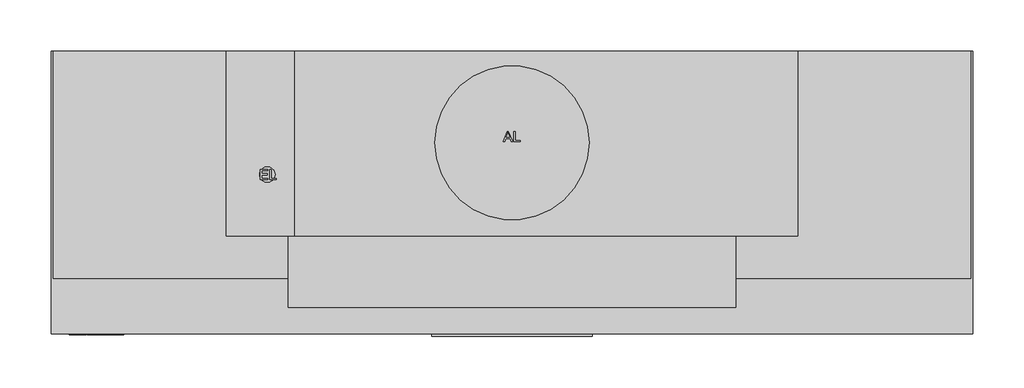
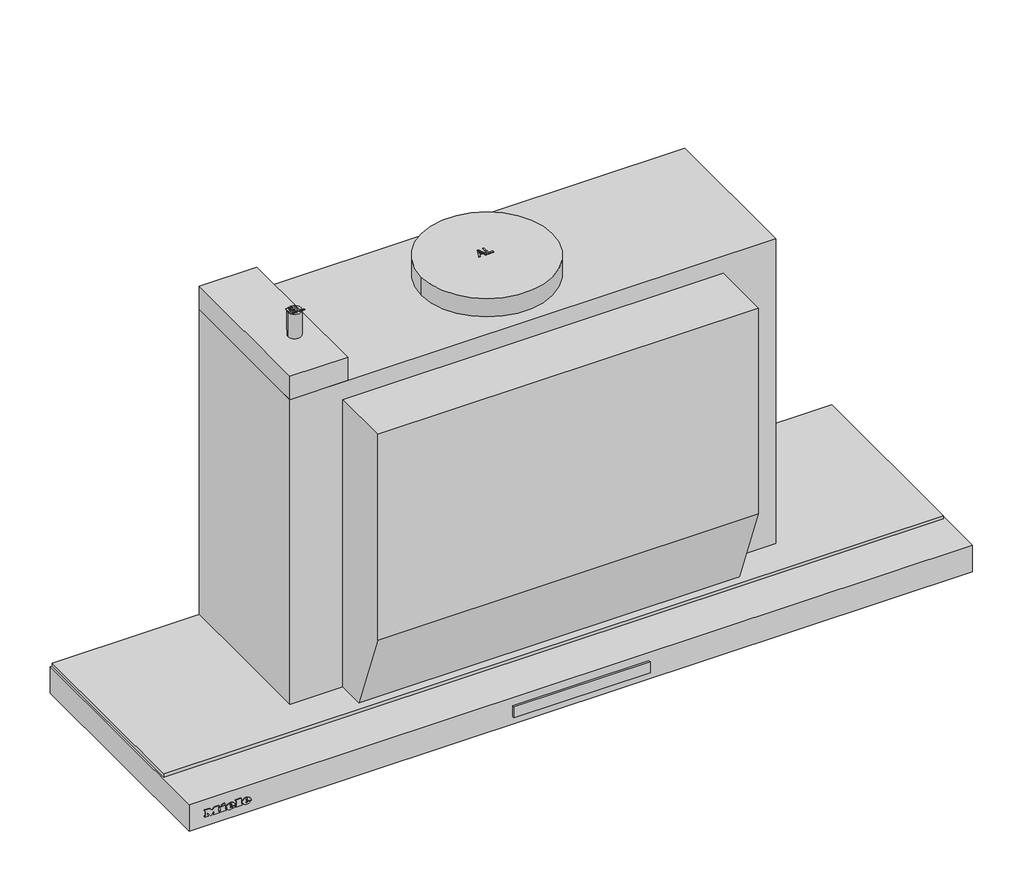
# Not in any storey: 1 proxy.
"""IFC4 building model written with IfcOpenShell, lengths in millimetres."""

from ifc_helpers import new_model, si_unit, origin, place, context, project, spatial, transform, mapped, element, save
from components import specialty_equipment_699ca95f

model = new_model("IFC4")

# Units and contexts
model_context = context("Model", 3, world=origin())
ifc_project = project(units=[si_unit("LENGTHUNIT", "METRE", prefix="MILLI")], contexts=[model_context])

# Site, building
site = spatial("IfcSite", under=ifc_project)
building = spatial("IfcBuilding", under=site)

# Proxy
placement = place(None, origin())
specialty_equipment_shape = specialty_equipment_699ca95f(model_context)
element("IfcBuildingElementProxy", 1, Name="11878530_USA_DAS4920_EDST : 28S4920S_USA_11878530_DAS4920_EDST", ObjectType="11878530_USA_DAS4920_EDST : 28S4920S_USA_11878530_DAS4920_EDST", at=placement, inside=building, context=model_context, shape_type="MappedRepresentation", body=[
    mapped(specialty_equipment_shape, transform((0.0, 0.0, 0.0), x_axis=(1.0, 0.0, 0.0), y_axis=(0.0, 1.0, 0.0), z_axis=(0.0, 0.0, 1.0))),
])

save(model, "model.ifc")
